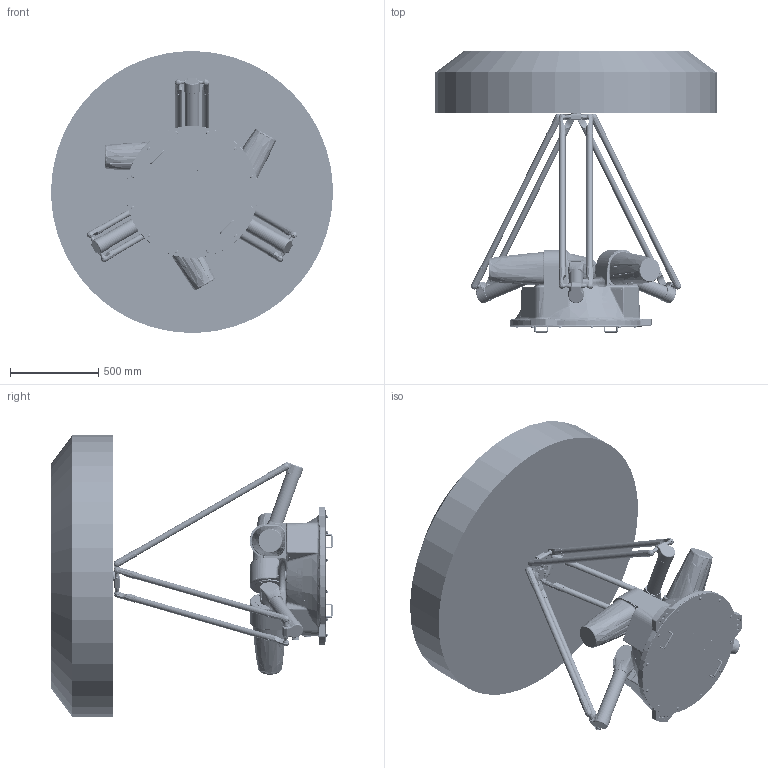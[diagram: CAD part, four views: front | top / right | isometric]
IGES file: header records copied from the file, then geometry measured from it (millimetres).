
Start section: SolidWorks IGES file using analytic representation for surfaces
Bounding box: 1599.97 x 1597 x 1599.97 mm (x, y, z)
Surface area: 10217302.8 mm2 (no closed solid volume)
Topology: 0 solids, 0 shells, 5955 faces, 81879 edges, 81578 vertices
Faces by surface type: bspline 3786, revolution 2169
